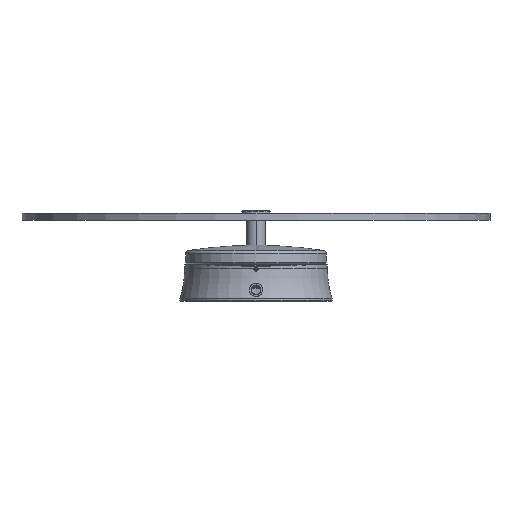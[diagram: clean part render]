
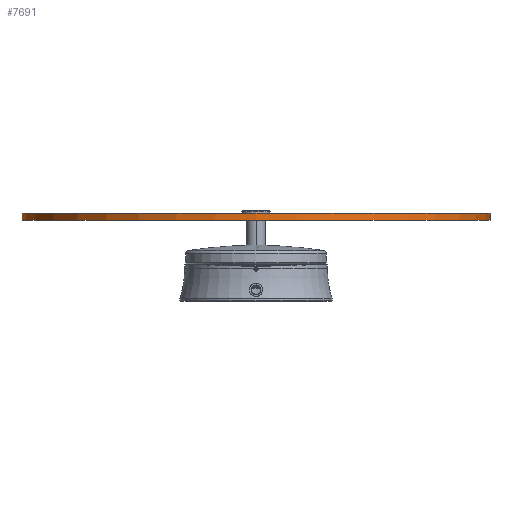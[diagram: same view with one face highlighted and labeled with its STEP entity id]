
A CAD part, front view. The second image highlights one B-rep face of the part: STEP entity #7691.
In plain terms, the highlighted cylindrical face has radius 200 mm (diameter 400 mm), a partial arc.
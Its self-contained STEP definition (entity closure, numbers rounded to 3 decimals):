
#513 = CARTESIAN_POINT ( 'NONE',  ( 0., 0., 6. ) ) ;
#561 = DIRECTION ( 'NONE',  ( 0., 0., 1. ) ) ;
#694 = CARTESIAN_POINT ( 'NONE',  ( 200., 0., 6. ) ) ;
#1413 = CARTESIAN_POINT ( 'NONE',  ( -200., 0., 0. ) ) ;
#1548 = FACE_OUTER_BOUND ( 'NONE', #2431, .T. ) ;
#1702 = CARTESIAN_POINT ( 'NONE',  ( 0., 0., 6. ) ) ;
#1899 = EDGE_CURVE ( 'NONE', #4080, #5628, #7209, .T. ) ;
#1916 = LINE ( 'NONE', #5953, #8718 ) ;
#2431 = EDGE_LOOP ( 'NONE', ( #4083, #3905, #6864, #9183 ) ) ;
#2532 = LINE ( 'NONE', #7590, #3167 ) ;
#2644 = EDGE_CURVE ( 'NONE', #6237, #5628, #1916, .T. ) ;
#2656 = EDGE_CURVE ( 'NONE', #8018, #4080, #2532, .T. ) ;
#2984 = CIRCLE ( 'NONE', #8869, 200. ) ;
#3093 = DIRECTION ( 'NONE',  ( 0., 0., -1. ) ) ;
#3167 = VECTOR ( 'NONE', #9777, 1000. ) ;
#3418 = DIRECTION ( 'NONE',  ( 0., 0., -1. ) ) ;
#3456 = DIRECTION ( 'NONE',  ( 1., 0., 0. ) ) ;
#3905 = ORIENTED_EDGE ( 'NONE', *, *, #9331, .F. ) ;
#3990 = DIRECTION ( 'NONE',  ( -1., 0., 0. ) ) ;
#4080 = VERTEX_POINT ( 'NONE', #1413 ) ;
#4083 = ORIENTED_EDGE ( 'NONE', *, *, #2644, .F. ) ;
#5297 = CARTESIAN_POINT ( 'NONE',  ( 0., 0., 0. ) ) ;
#5628 = VERTEX_POINT ( 'NONE', #7914 ) ;
#5714 = AXIS2_PLACEMENT_3D ( 'NONE', #5297, #8344, #3456 ) ;
#5953 = CARTESIAN_POINT ( 'NONE',  ( 200., 0., 6. ) ) ;
#6237 = VERTEX_POINT ( 'NONE', #694 ) ;
#6864 = ORIENTED_EDGE ( 'NONE', *, *, #2656, .T. ) ;
#6889 = DIRECTION ( 'NONE',  ( 1., 0., 0. ) ) ;
#7209 = CIRCLE ( 'NONE', #5714, 200. ) ;
#7590 = CARTESIAN_POINT ( 'NONE',  ( -200., 0., 6. ) ) ;
#7691 = ADVANCED_FACE ( 'NONE', ( #1548 ), #8742, .T. ) ;
#7914 = CARTESIAN_POINT ( 'NONE',  ( 200., 0., 0. ) ) ;
#8018 = VERTEX_POINT ( 'NONE', #8830 ) ;
#8344 = DIRECTION ( 'NONE',  ( 0., 0., 1. ) ) ;
#8718 = VECTOR ( 'NONE', #3418, 1000. ) ;
#8742 = CYLINDRICAL_SURFACE ( 'NONE', #9082, 200. ) ;
#8830 = CARTESIAN_POINT ( 'NONE',  ( -200., 0., 6. ) ) ;
#8869 = AXIS2_PLACEMENT_3D ( 'NONE', #513, #561, #6889 ) ;
#9082 = AXIS2_PLACEMENT_3D ( 'NONE', #1702, #3093, #3990 ) ;
#9183 = ORIENTED_EDGE ( 'NONE', *, *, #1899, .T. ) ;
#9331 = EDGE_CURVE ( 'NONE', #8018, #6237, #2984, .T. ) ;
#9777 = DIRECTION ( 'NONE',  ( 0., 0., -1. ) ) ;
